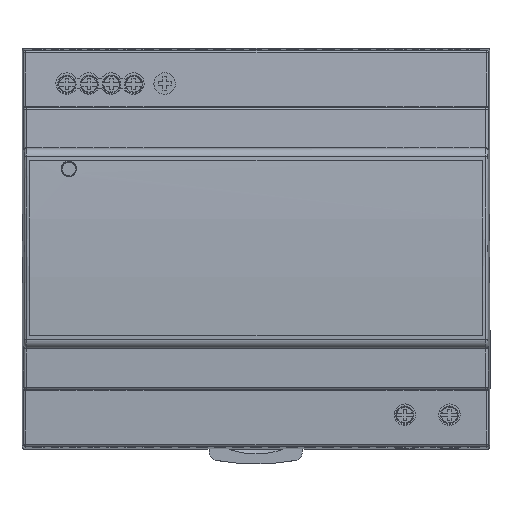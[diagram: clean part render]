
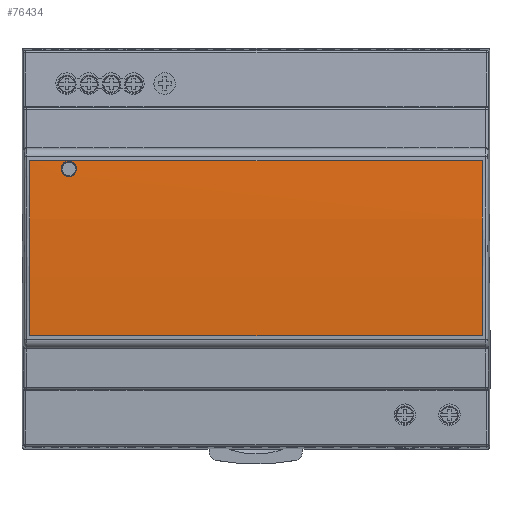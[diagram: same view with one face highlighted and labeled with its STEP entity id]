
A CAD part, top view. The second image highlights one B-rep face of the part: STEP entity #76434.
In plain terms, the highlighted cylindrical face has radius 318.75 mm (diameter 637.5 mm), a partial arc.
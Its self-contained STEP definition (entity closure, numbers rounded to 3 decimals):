
#76378=CARTESIAN_POINT('',(289.8,0.,51.997));
#76379=DIRECTION('',(-0.998,-0.07,0.));
#76380=DIRECTION('',(0.,0.,-1.));
#76381=AXIS2_PLACEMENT_3D('',#76378,#76380,#76379);
#76382=CYLINDRICAL_SURFACE('',#76381,318.75);
#76383=CARTESIAN_POINT('',(-28.343,19.662,-50.75));
#76384=VERTEX_POINT('',#76383);
#76385=CARTESIAN_POINT('',(-28.343,19.662,50.75));
#76386=VERTEX_POINT('',#76385);
#76387=CARTESIAN_POINT('',(-28.343,19.662,-50.75));
#76388=DIRECTION('',(0.,0.,1.));
#76389=VECTOR('',#76388,101.5);
#76390=LINE('',#76387,#76389);
#76391=EDGE_CURVE('',#76384,#76386,#76390,.T.);
#76392=ORIENTED_EDGE('E5098',*,*,#76391,.F.);
#76393=CARTESIAN_POINT('',(-28.343,-19.662,-50.75));
#76394=VERTEX_POINT('',#76393);
#76395=CARTESIAN_POINT('',(289.8,0.,-50.75));
#76396=DIRECTION('',(-0.998,-0.062,0.));
#76397=DIRECTION('',(0.,0.,-1.));
#76398=AXIS2_PLACEMENT_3D('',#76395,#76397,#76396);
#76399=CIRCLE('',#76398,318.75);
#76400=EDGE_CURVE('',#76394,#76384,#76399,.T.);
#76401=ORIENTED_EDGE('E5099',*,*,#76400,.F.);
#76402=CARTESIAN_POINT('',(-28.343,-19.662,50.75));
#76403=VERTEX_POINT('',#76402);
#76404=CARTESIAN_POINT('',(-28.343,-19.662,50.75));
#76405=DIRECTION('',(0.,0.,-1.));
#76406=VECTOR('',#76405,101.5);
#76407=LINE('',#76404,#76406);
#76408=EDGE_CURVE('',#76403,#76394,#76407,.T.);
#76409=ORIENTED_EDGE('E5100',*,*,#76408,.F.);
#76410=CARTESIAN_POINT('',(289.8,0.,50.75));
#76411=DIRECTION('',(-0.998,0.062,0.));
#76412=DIRECTION('',(0.,0.,1.));
#76413=AXIS2_PLACEMENT_3D('',#76410,#76412,#76411);
#76414=CIRCLE('',#76413,318.75);
#76415=EDGE_CURVE('',#76386,#76403,#76414,.T.);
#76416=ORIENTED_EDGE('E5101',*,*,#76415,.F.);
#76417=EDGE_LOOP('',(#76392,#76401,#76409,#76416));
#76418=FACE_OUTER_BOUND('',#76417,.T.);
#76419=CARTESIAN_POINT('',(-28.453,-17.8,40.271));
#76420=VERTEX_POINT('',#76419);
#76421=CARTESIAN_POINT('',(-28.453,-17.8,40.271));
#76422=CARTESIAN_POINT('',(-28.378,-19.133,40.275));
#76423=CARTESIAN_POINT('',(-28.324,-19.979,41.732));
#76424=CARTESIAN_POINT('',(-28.41,-18.567,44.061));
#76425=CARTESIAN_POINT('',(-28.504,-16.858,43.992));
#76426=CARTESIAN_POINT('',(-28.565,-15.669,41.614));
#76427=CARTESIAN_POINT('',(-28.524,-16.518,40.267));
#76428=CARTESIAN_POINT('',(-28.453,-17.8,40.271));
#76429=B_SPLINE_CURVE_WITH_KNOTS('',3,(#76421,#76422,#76423,#76424,#76425,#76426,#76427,#76428),.UNSPECIFIED.,.T.,.U.,(4,2,2,4),(0.,0.339,0.678,1.),.UNSPECIFIED.);
#76430=EDGE_CURVE('',#76420,#76420,#76429,.T.);
#76431=ORIENTED_EDGE('E5118',*,*,#76430,.F.);
#76432=EDGE_LOOP('',(#76431));
#76433=FACE_BOUND('',#76432,.T.);
#76434=ADVANCED_FACE('F1429',(#76418,#76433),#76382,.T.);
